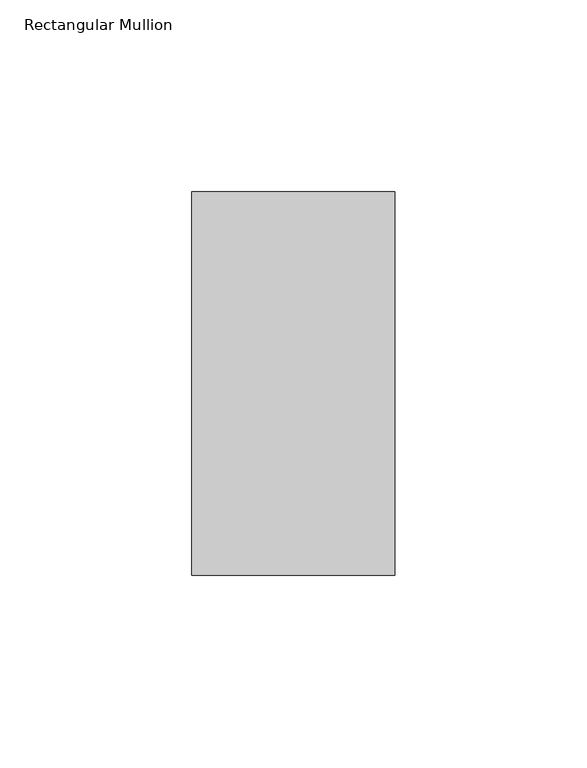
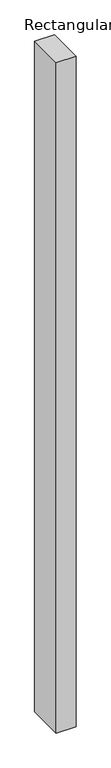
"""IFC4 building model written with IfcOpenShell, lengths in millimetres: member geometry, Rectangular Mullion : IMP219 100mm x 53mm Horizontal."""

from ifc_helpers import new_model, si_unit, frame, origin, place, context, project, spatial, polyline, outline, extrude, source, transform, mapped, element, save


def rectangular_mullion_171d632f(model_context):
    return source(origin(), model_context, "Body", "SweptSolid", [
        extrude(outline(polyline([(0.0, -50.0), (-53.0, -50.0), (-53.0, 50.0), (0.0, 50.0), (0.0, -50.0)])), frame((0.0, 0.0, -1898.5), z_axis=(0.0, 0.0, 1.0), x_axis=(1.0, 0.0, 0.0)), (0.0, 0.0, 1.0), 1898.5),
    ])


if __name__ == "__main__":
    model = new_model("IFC4")
    model_context = context("Model", 3, world=origin())
    ifc_project = project(units=[si_unit("LENGTHUNIT", "METRE", prefix="MILLI")], contexts=[model_context])
    site = spatial("IfcSite", under=ifc_project)
    building = spatial("IfcBuilding", under=site)
    placement = place(None, origin())
    rectangular_mullion_shape = rectangular_mullion_171d632f(model_context)
    element("IfcMember", 1, ObjectType="Rectangular Mullion : IMP219 100mm x 53mm Horizontal", at=placement, inside=building, context=model_context, shape_type="MappedRepresentation", body=[
        mapped(rectangular_mullion_shape, transform((0.0, 0.0, 0.0), x_axis=(1.0, 0.0, 0.0), y_axis=(0.0, 1.0, 0.0), z_axis=(0.0, 0.0, 1.0))),
    ])
    save(model, "model.ifc")
